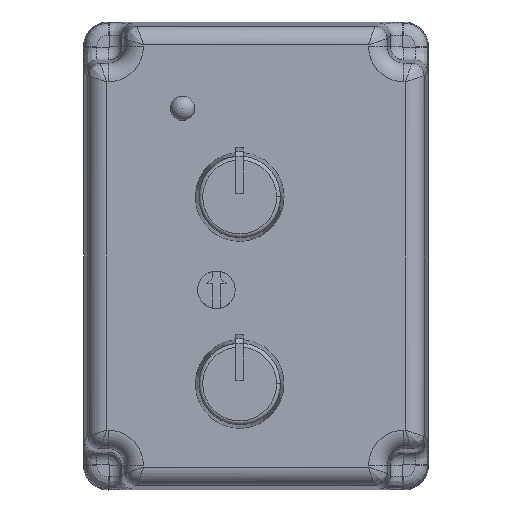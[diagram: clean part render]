
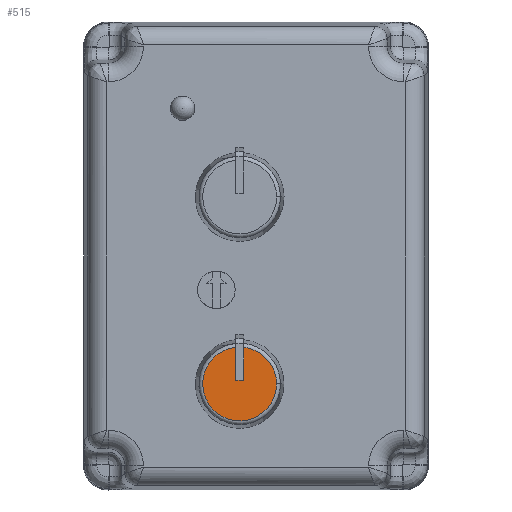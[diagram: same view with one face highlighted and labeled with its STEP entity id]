
A CAD part, front view. The second image highlights one B-rep face of the part: STEP entity #515.
In plain terms, the highlighted planar face has unit normal (0, -1, 0).
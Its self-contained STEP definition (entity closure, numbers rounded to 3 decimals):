
#32 = PLANE('',#33);
#33 = AXIS2_PLACEMENT_3D('',#34,#35,#36);
#34 = CARTESIAN_POINT('',(-1.6,-56.972,-10.144
    ));
#35 = DIRECTION('',(1.,0.,0.));
#36 = DIRECTION('',(0.,0.,-1.));
#57 = VERTEX_POINT('',#58);
#58 = CARTESIAN_POINT('',(-1.6,-70.688,-16.011
    ));
#72 = PLANE('',#73);
#73 = AXIS2_PLACEMENT_3D('',#74,#75,#76);
#74 = CARTESIAN_POINT('',(-1.6,-56.972,-16.011
    ));
#75 = DIRECTION('',(0.,0.,-1.));
#76 = DIRECTION('',(-1.,0.,0.));
#84 = EDGE_CURVE('',#57,#85,#87,.T.);
#85 = VERTEX_POINT('',#86);
#86 = CARTESIAN_POINT('',(-1.6,-70.688,-11.768
    ));
#87 = SURFACE_CURVE('',#88,(#92,#99),.PCURVE_S1.);
#88 = LINE('',#89,#90);
#89 = CARTESIAN_POINT('',(-1.6,-70.688,-13.319
    ));
#90 = VECTOR('',#91,1.);
#91 = DIRECTION('',(0.,0.,1.));
#92 = PCURVE('',#32,#93);
#93 = DEFINITIONAL_REPRESENTATION('',(#94),#98);
#94 = LINE('',#95,#96);
#95 = CARTESIAN_POINT('',(3.175,-13.716));
#96 = VECTOR('',#97,1.);
#97 = DIRECTION('',(-1.,0.));
#98 = ( GEOMETRIC_REPRESENTATION_CONTEXT(2) 
PARAMETRIC_REPRESENTATION_CONTEXT() REPRESENTATION_CONTEXT('2D SPACE',''
  ) );
#99 = PCURVE('',#100,#105);
#100 = PLANE('',#101);
#101 = AXIS2_PLACEMENT_3D('',#102,#103,#104);
#102 = CARTESIAN_POINT('',(-2.108,-70.688,
    -16.494));
#103 = DIRECTION('',(0.,-1.,0.));
#104 = DIRECTION('',(1.,0.,0.));
#105 = DEFINITIONAL_REPRESENTATION('',(#106),#110);
#106 = LINE('',#107,#108);
#107 = CARTESIAN_POINT('',(0.508,3.175));
#108 = VECTOR('',#109,1.);
#109 = DIRECTION('',(0.,1.));
#110 = ( GEOMETRIC_REPRESENTATION_CONTEXT(2) 
PARAMETRIC_REPRESENTATION_CONTEXT() REPRESENTATION_CONTEXT('2D SPACE',''
  ) );
#150 = TOROIDAL_SURFACE('',#151,4.753,0.5);
#151 = AXIS2_PLACEMENT_3D('',#152,#153,#154);
#152 = CARTESIAN_POINT('',(-2.108,-70.188,
    -16.494));
#153 = DIRECTION('',(0.,-1.,0.));
#154 = DIRECTION('',(1.,0.,0.));
#335 = PLANE('',#336);
#336 = AXIS2_PLACEMENT_3D('',#337,#338,#339);
#337 = CARTESIAN_POINT('',(-2.616,-56.972,
    -16.011));
#338 = DIRECTION('',(-1.,0.,0.));
#339 = DIRECTION('',(0.,0.,1.));
#421 = EDGE_CURVE('',#422,#57,#424,.T.);
#422 = VERTEX_POINT('',#423);
#423 = CARTESIAN_POINT('',(-2.616,-70.688,
    -16.011));
#424 = SURFACE_CURVE('',#425,(#429,#436),.PCURVE_S1.);
#425 = LINE('',#426,#427);
#426 = CARTESIAN_POINT('',(-1.854,-70.688,
    -16.011));
#427 = VECTOR('',#428,1.);
#428 = DIRECTION('',(1.,0.,0.));
#429 = PCURVE('',#72,#430);
#430 = DEFINITIONAL_REPRESENTATION('',(#431),#435);
#431 = LINE('',#432,#433);
#432 = CARTESIAN_POINT('',(0.254,-13.716));
#433 = VECTOR('',#434,1.);
#434 = DIRECTION('',(-1.,-0.));
#435 = ( GEOMETRIC_REPRESENTATION_CONTEXT(2) 
PARAMETRIC_REPRESENTATION_CONTEXT() REPRESENTATION_CONTEXT('2D SPACE',''
  ) );
#436 = PCURVE('',#100,#437);
#437 = DEFINITIONAL_REPRESENTATION('',(#438),#442);
#438 = LINE('',#439,#440);
#439 = CARTESIAN_POINT('',(0.254,0.483));
#440 = VECTOR('',#441,1.);
#441 = DIRECTION('',(1.,0.));
#442 = ( GEOMETRIC_REPRESENTATION_CONTEXT(2) 
PARAMETRIC_REPRESENTATION_CONTEXT() REPRESENTATION_CONTEXT('2D SPACE',''
  ) );
#515 = ADVANCED_FACE('',(#516),#100,.T.);
#516 = FACE_BOUND('',#517,.T.);
#517 = EDGE_LOOP('',(#518,#541,#570,#592,#593));
#518 = ORIENTED_EDGE('',*,*,#519,.F.);
#519 = EDGE_CURVE('',#520,#422,#522,.T.);
#520 = VERTEX_POINT('',#521);
#521 = CARTESIAN_POINT('',(-2.616,-70.688,
    -11.768));
#522 = SURFACE_CURVE('',#523,(#527,#534),.PCURVE_S1.);
#523 = LINE('',#524,#525);
#524 = CARTESIAN_POINT('',(-2.616,-70.688,
    -16.252));
#525 = VECTOR('',#526,1.);
#526 = DIRECTION('',(0.,0.,-1.));
#527 = PCURVE('',#100,#528);
#528 = DEFINITIONAL_REPRESENTATION('',(#529),#533);
#529 = LINE('',#530,#531);
#530 = CARTESIAN_POINT('',(-0.508,0.241));
#531 = VECTOR('',#532,1.);
#532 = DIRECTION('',(0.,-1.));
#533 = ( GEOMETRIC_REPRESENTATION_CONTEXT(2) 
PARAMETRIC_REPRESENTATION_CONTEXT() REPRESENTATION_CONTEXT('2D SPACE',''
  ) );
#534 = PCURVE('',#335,#535);
#535 = DEFINITIONAL_REPRESENTATION('',(#536),#540);
#536 = LINE('',#537,#538);
#537 = CARTESIAN_POINT('',(-0.241,-13.716));
#538 = VECTOR('',#539,1.);
#539 = DIRECTION('',(-1.,0.));
#540 = ( GEOMETRIC_REPRESENTATION_CONTEXT(2) 
PARAMETRIC_REPRESENTATION_CONTEXT() REPRESENTATION_CONTEXT('2D SPACE',''
  ) );
#541 = ORIENTED_EDGE('',*,*,#542,.T.);
#542 = EDGE_CURVE('',#520,#543,#545,.T.);
#543 = VERTEX_POINT('',#544);
#544 = CARTESIAN_POINT('',(2.645,-70.688,
    -16.494));
#545 = SURFACE_CURVE('',#546,(#551,#558),.PCURVE_S1.);
#546 = CIRCLE('',#547,4.753);
#547 = AXIS2_PLACEMENT_3D('',#548,#549,#550);
#548 = CARTESIAN_POINT('',(-2.108,-70.688,
    -16.494));
#549 = DIRECTION('',(0.,-1.,0.));
#550 = DIRECTION('',(-0.097,0.,
    0.995));
#551 = PCURVE('',#100,#552);
#552 = DEFINITIONAL_REPRESENTATION('',(#553),#557);
#553 = CIRCLE('',#554,4.753);
#554 = AXIS2_PLACEMENT_2D('',#555,#556);
#555 = CARTESIAN_POINT('',(0.,0.));
#556 = DIRECTION('',(-0.097,0.995));
#557 = ( GEOMETRIC_REPRESENTATION_CONTEXT(2) 
PARAMETRIC_REPRESENTATION_CONTEXT() REPRESENTATION_CONTEXT('2D SPACE',''
  ) );
#558 = PCURVE('',#559,#564);
#559 = TOROIDAL_SURFACE('',#560,4.753,0.5);
#560 = AXIS2_PLACEMENT_3D('',#561,#562,#563);
#561 = CARTESIAN_POINT('',(-2.108,-70.188,
    -16.494));
#562 = DIRECTION('',(0.,-1.,0.));
#563 = DIRECTION('',(-0.097,0.,
    0.995));
#564 = DEFINITIONAL_REPRESENTATION('',(#565),#569);
#565 = LINE('',#566,#567);
#566 = CARTESIAN_POINT('',(0.,1.571));
#567 = VECTOR('',#568,1.);
#568 = DIRECTION('',(1.,0.));
#569 = ( GEOMETRIC_REPRESENTATION_CONTEXT(2) 
PARAMETRIC_REPRESENTATION_CONTEXT() REPRESENTATION_CONTEXT('2D SPACE',''
  ) );
#570 = ORIENTED_EDGE('',*,*,#571,.T.);
#571 = EDGE_CURVE('',#543,#85,#572,.T.);
#572 = SURFACE_CURVE('',#573,(#578,#585),.PCURVE_S1.);
#573 = CIRCLE('',#574,4.753);
#574 = AXIS2_PLACEMENT_3D('',#575,#576,#577);
#575 = CARTESIAN_POINT('',(-2.108,-70.688,
    -16.494));
#576 = DIRECTION('',(0.,-1.,0.));
#577 = DIRECTION('',(1.,0.,0.));
#578 = PCURVE('',#100,#579);
#579 = DEFINITIONAL_REPRESENTATION('',(#580),#584);
#580 = CIRCLE('',#581,4.753);
#581 = AXIS2_PLACEMENT_2D('',#582,#583);
#582 = CARTESIAN_POINT('',(0.,0.));
#583 = DIRECTION('',(1.,0.));
#584 = ( GEOMETRIC_REPRESENTATION_CONTEXT(2) 
PARAMETRIC_REPRESENTATION_CONTEXT() REPRESENTATION_CONTEXT('2D SPACE',''
  ) );
#585 = PCURVE('',#150,#586);
#586 = DEFINITIONAL_REPRESENTATION('',(#587),#591);
#587 = LINE('',#588,#589);
#588 = CARTESIAN_POINT('',(0.,1.571));
#589 = VECTOR('',#590,1.);
#590 = DIRECTION('',(1.,0.));
#591 = ( GEOMETRIC_REPRESENTATION_CONTEXT(2) 
PARAMETRIC_REPRESENTATION_CONTEXT() REPRESENTATION_CONTEXT('2D SPACE',''
  ) );
#592 = ORIENTED_EDGE('',*,*,#84,.F.);
#593 = ORIENTED_EDGE('',*,*,#421,.F.);
